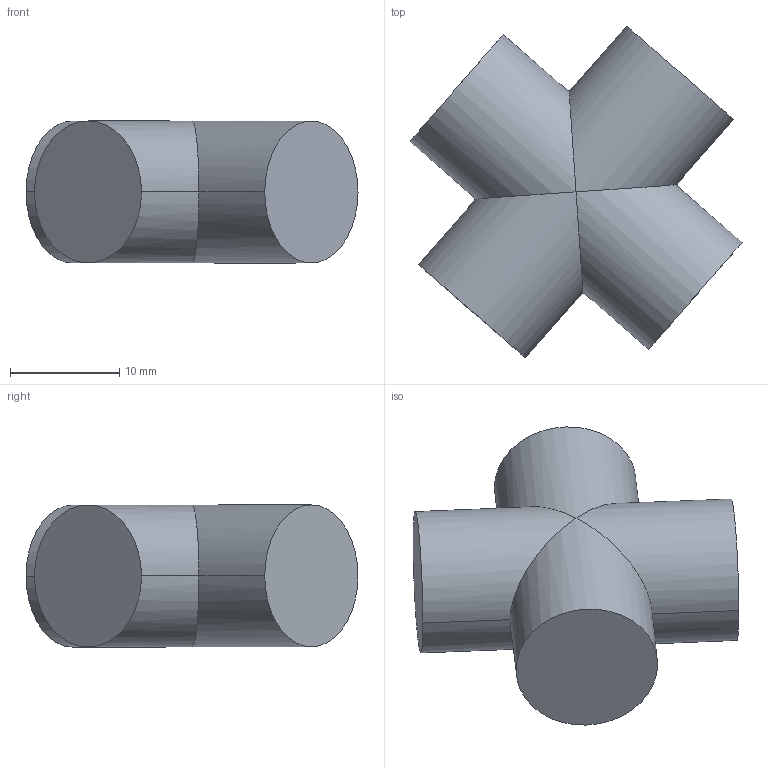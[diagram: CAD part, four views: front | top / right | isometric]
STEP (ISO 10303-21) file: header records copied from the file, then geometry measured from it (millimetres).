
FILE_DESCRIPTION (( 'STEP AP214' ), '1' );
FILE_NAME ('IRB365_1.5-1300_OmniCore_rev00_CROSS_JOINT_4_CAD.step', '2025-09-09T11:52:06', ( '' ), ( '' ), 'SwSTEP 2.0', 'SolidWorks 2024', '' );
FILE_SCHEMA (( 'AUTOMOTIVE_DESIGN' ));
Length unit declared in the file: millimetre
Products named in the file (1): IRB365_1.5-1300_OmniCore_rev00_CROSS_JOINT_4_CAD
Bounding box: 30.41 x 30.41 x 13.02 mm (x, y, z)
Volume: 6233.8 mm3; surface area: 2223.7 mm2
Topology: 1 solids, 1 shells, 12 faces, 24 edges, 14 vertices
Faces by surface type: cylinder 8, plane 4
Entity records: 463 total; most frequent: CARTESIAN_POINT 75, DIRECTION 50, ORIENTED_EDGE 48, EDGE_CURVE 24, AXIS2_PLACEMENT_3D 21, UNCERTAINTY_MEASURE_WITH_UNIT 14, VERTEX_POINT 14, COLOUR_RGB 13
